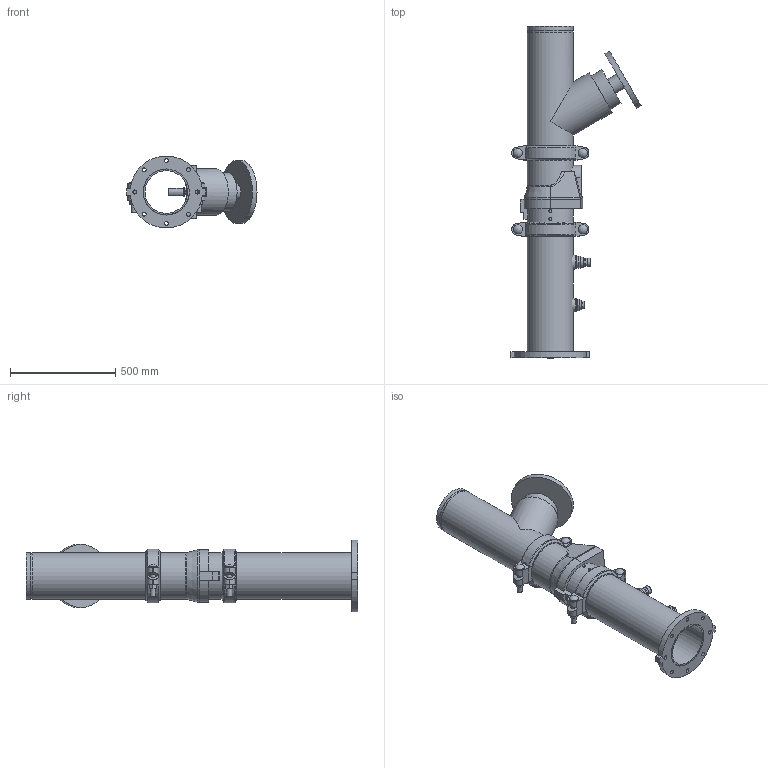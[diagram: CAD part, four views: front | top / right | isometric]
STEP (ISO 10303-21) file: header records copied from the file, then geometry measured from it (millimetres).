
FILE_DESCRIPTION(/* description */ ('VIC DVI PUMP DROP VERT S/383 (OGSxFLG) (S/924-0.75)','CAx-IF Rec.Pracs.---Representation and Presentation of Product Manufacturing Information (PMI)---4.0---2014-10-13'),/* implementation_level */ '2;1');
FILE_NAME(/* name */ 'C:\Users\Public\Documents\Victaulic.Temp\A849\Victaulic_IPS_Vertical DVI_CL 150_Series 383 (OGSxFLG)_924 (0.75)_08.0x08.0 (200x200).stp',/* time_stamp */ '2022-07-25T11:41:43+02:00',/* author */ ('Vjadhav'),/* organization */ ('Victaulic'),/* preprocessor_version */ 'ST-DEVELOPER v18',/* originating_system */ 'Autodesk Inventor 2020',/* authorisation */ '');
FILE_SCHEMA (('AP242_MANAGED_MODEL_BASED_3D_ENGINEERING_MIM_LF { 1 0 10303 442 1 1 4 }'));
Length unit declared in the file: inch
Products named in the file (8): 383_924 (0.75)-08.0x08.0; 741-08.0; Pipe-08.0x08.0; 177N-08.0; 789-08.0; 779-08.0; 924-04.0x0.75; 923-04.0x0.75
Assembly tree (8 placements, depth 2):
  383_924 (0.75)-08.0x08.0
    741-08.0
    Pipe-08.0x08.0
    177N-08.0  x2
    789-08.0
    779-08.0
    924-04.0x0.75
    923-04.0x0.75
Bounding box: 619.12 x 1579.63 x 341.59 mm (x, y, z)
Volume: 26014441.8 mm3; surface area: 3147433.7 mm2
Topology: 8 solids, 8 shells, 411 faces, 1078 edges, 725 vertices
Faces by surface type: plane 239, cylinder 139, torus 14, cone 13, sphere 4, bspline 2
Full cylindrical faces by diameter (mm): 13.716 x4, 19.05 x8, 23.774 x4, 26.67 x2, 38.608 x1, 42.85 x4, 45.974 x4, 55.626 x2, 76.2 x1, 183.515 x1, 202.717 x3, 206.375 x2, 214.401 x6, 219.075 x16, 299.974 x1
Entity records: 11065 total; most frequent: CARTESIAN_POINT 2287, DIRECTION 1797, ORIENTED_EDGE 1650, EDGE_CURVE 825, AXIS2_PLACEMENT_3D 681, VERTEX_POINT 557, LINE 435, VECTOR 435
